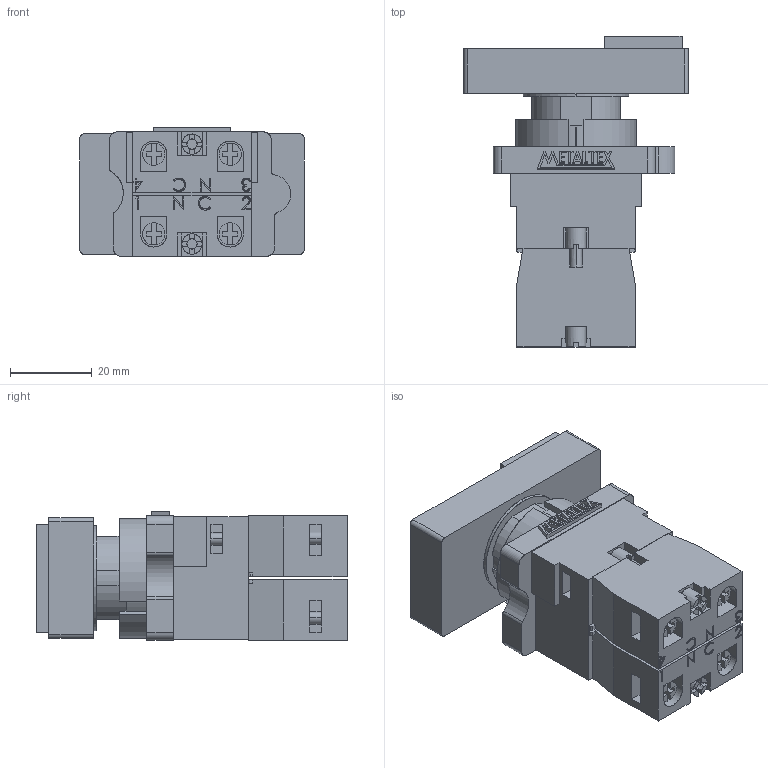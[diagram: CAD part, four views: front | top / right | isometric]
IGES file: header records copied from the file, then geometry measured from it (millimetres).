
Start section: SolidWorks IGES file using analytic representation for surfaces
Global section: file name: D:\X - Arquivos\PROEX\Empresas\P11 - METALTEX\01 - Produtos\IGES\Segunda remessa\P20ITL-Y-1C.IGS; native system: SolidWorks 2012; preprocessor: SolidWorks 2012; author: Usuario; date: 180117.120552; units: millimetre
Bounding box: 55 x 76.25 x 31.5 mm (x, y, z)
Surface area: 26555.5 mm2 (no closed solid volume)
Topology: 0 solids, 0 shells, 712 faces, 7647 edges, 7647 vertices
Faces by surface type: bspline 575, revolution 137
